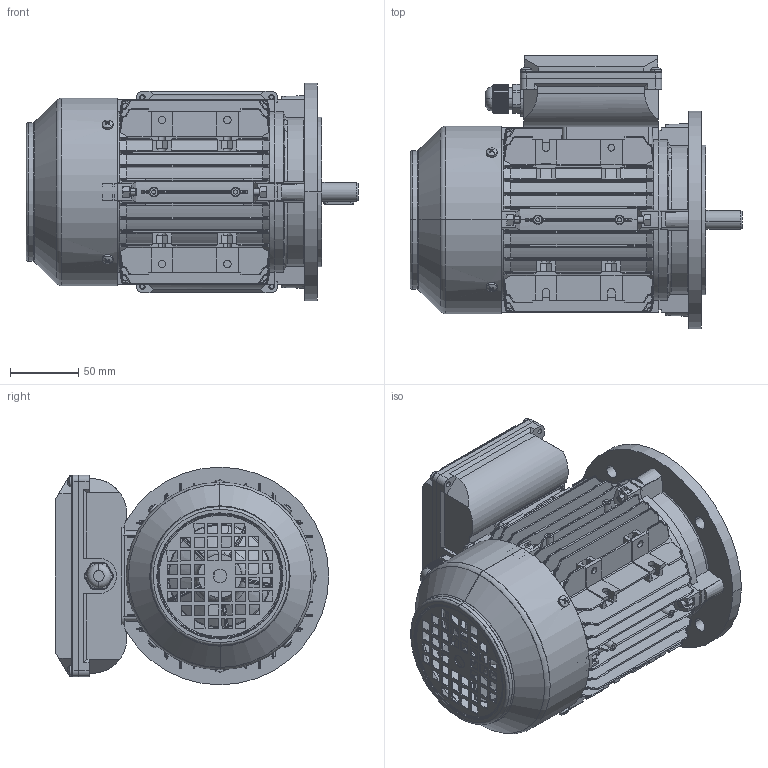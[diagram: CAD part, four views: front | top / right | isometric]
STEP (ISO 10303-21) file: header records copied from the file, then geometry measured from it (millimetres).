
FILE_DESCRIPTION (( 'STEP AP203' ), '1' );
FILE_NAME ('ML2 71 B5.STEP', '2024-01-20T01:51:34', ( '' ), ( '' ), 'SwSTEP 2.0', 'SolidWorks 2016', '' );
FILE_SCHEMA (( 'CONFIG_CONTROL_DESIGN' ));
Length unit declared in the file: millimetre
Products named in the file (15): TAN71 B5裔; TAN71 綴裔; TAN71 儂褲; hexagon socket head cap screws gb_GB_FASTENER_SCREWS_HSHCS M5X25-N; plain parallel keys_GB_CONNECTING_PIECE_KEYS_CSK 5X22; TA71瑞欶; hexagon nuts grade c gb_GB_FASTENER_NUT_SNC1 M5-N; MS71 瑞珔; T71蛌粣; ML63-71諉盄碟釱(臏); 堤盄蹟杶M16; ML63-71臏諉盄碟軞傖.SLDPRT; ML63-71諉盄碟裔(臏); cross recessed thread forming screws gb_GB_CROSS_SCREWS_TYPE138 M4X10-N; ML2 71 B5
Assembly tree (35 placements, depth 3):
  ML2 71 B5
    TAN71 儂褲
    TAN71 綴裔
    T71蛌粣
    TA71瑞欶
    MS71 瑞珔
    hexagon nuts grade c gb_GB_FASTENER_NUT_SNC1 M5-N  x8
    hexagon socket head cap screws gb_GB_FASTENER_SCREWS_HSHCS M5X25-N  x8
    cross recessed thread forming screws gb_GB_CROSS_SCREWS_TYPE138 M4X10-N  x4
    plain parallel keys_GB_CONNECTING_PIECE_KEYS_CSK 5X22
    TAN71 B5裔
    ML63-71臏諉盄碟軞傖.SLDPRT
      cross recessed thread forming screws gb_GB_CROSS_SCREWS_TYPE138 M4X10-N  x4
      堤盄蹟杶M16
      ML63-71諉盄碟裔(臏)
      ML63-71諉盄碟釱(臏)
Bounding box: 244 x 201 x 160 mm (x, y, z)
Volume: 802868.8 mm3; surface area: 536407 mm2
Topology: 34 solids, 34 shells, 4037 faces, 10569 edges, 6642 vertices
Faces by surface type: plane 1930, cylinder 991, bspline 554, cone 362, torus 172, sphere 28
Entity records: 129712 total; most frequent: CARTESIAN_POINT 44392, ORIENTED_EDGE 18870, DIRECTION 15515, EDGE_CURVE 9435, VERTEX_POINT 5963, AXIS2_PLACEMENT_3D 5404, LINE 4707, VECTOR 4707
